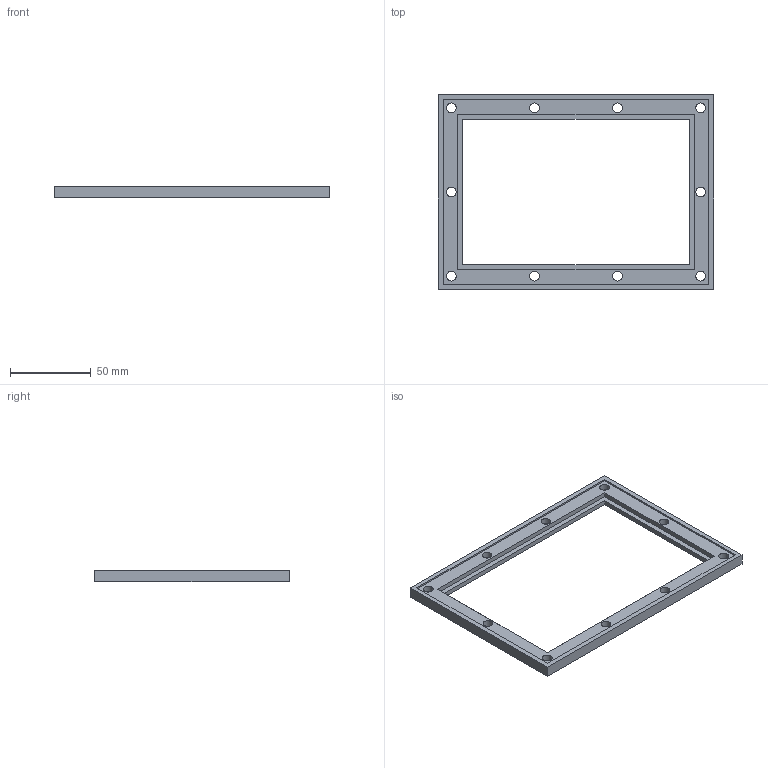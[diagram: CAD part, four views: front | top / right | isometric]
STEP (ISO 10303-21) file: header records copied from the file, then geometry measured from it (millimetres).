
FILE_DESCRIPTION(/* description */ (''),/* implementation_level */ '2;1');
FILE_NAME(/* name */ 'G:\YandexDisk\Работа\Inventor\Универ\ОАП\Лабораторные работы\ЛР6 Создание сборок\Редуктор\stp\Крышка 2.stp',/* time_stamp */ '2023-11-17T06:33:33+03:00',/* author */ ('34740'),/* organization */ (''),/* preprocessor_version */ 'ST-DEVELOPER v18.1',/* originating_system */ 'Autodesk Inventor 2022',/* authorisation */ '');
FILE_SCHEMA (('AUTOMOTIVE_DESIGN { 1 0 10303 214 3 1 1 }'));
Length unit declared in the file: millimetre
Products named in the file (1): Крышка 2
Bounding box: 170 x 120 x 7 mm (x, y, z)
Volume: 41554.2 mm3; surface area: 23864.8 mm2
Topology: 1 solids, 1 shells, 50 faces, 108 edges, 72 vertices
Faces by surface type: plane 30, cylinder 20
Full cylindrical faces by diameter (mm): 6 x10, 10 x10
Entity records: 1457 total; most frequent: DIRECTION 250, CARTESIAN_POINT 231, ORIENTED_EDGE 216, EDGE_CURVE 108, AXIS2_PLACEMENT_3D 91, EDGE_LOOP 84, VERTEX_POINT 72, LINE 68
